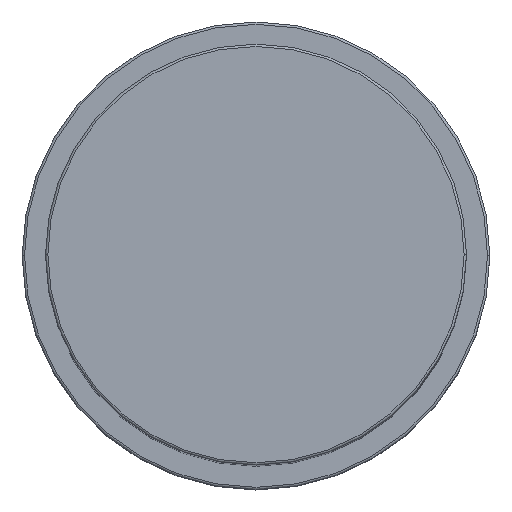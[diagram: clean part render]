
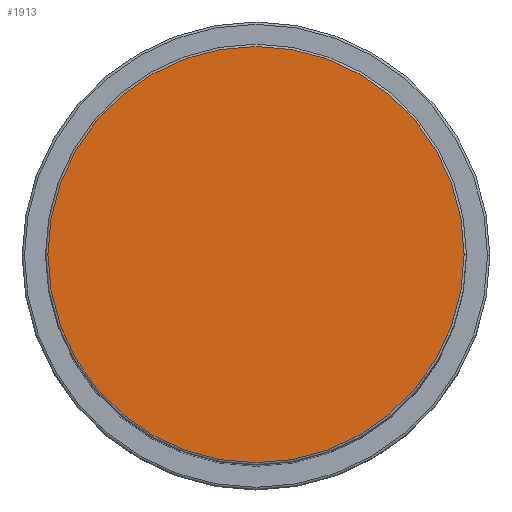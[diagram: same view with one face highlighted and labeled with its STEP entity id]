
A CAD part, top view. The second image highlights one B-rep face of the part: STEP entity #1913.
In plain terms, the highlighted planar face has unit normal (0, 0, 1).
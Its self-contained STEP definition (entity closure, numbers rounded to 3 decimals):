
#64 = ORIENTED_EDGE ( 'NONE', *, *, #3364, .T. ) ;
#66 = CIRCLE ( 'NONE', #613, 44.5 ) ;
#340 = CARTESIAN_POINT ( 'NONE',  ( 44.5, 0., 169. ) ) ;
#415 = CARTESIAN_POINT ( 'NONE',  ( 0., 0., 169. ) ) ;
#613 = AXIS2_PLACEMENT_3D ( 'NONE', #4337, #5429, #5457 ) ;
#698 = AXIS2_PLACEMENT_3D ( 'NONE', #4610, #2884, #3497 ) ;
#1458 = DIRECTION ( 'NONE',  ( 0., 0., 1. ) ) ;
#1913 = ADVANCED_FACE ( 'NONE', ( #4365 ), #5690, .T. ) ;
#2823 = CARTESIAN_POINT ( 'NONE',  ( -44.5, 0., 169. ) ) ;
#2884 = DIRECTION ( 'NONE',  ( 0., 0., 1. ) ) ;
#3364 = EDGE_CURVE ( 'NONE', #3426, #7146, #3827, .T. ) ;
#3426 = VERTEX_POINT ( 'NONE', #340 ) ;
#3497 = DIRECTION ( 'NONE',  ( 1., 0., 0. ) ) ;
#3618 = ORIENTED_EDGE ( 'NONE', *, *, #6946, .T. ) ;
#3827 = CIRCLE ( 'NONE', #6444, 44.5 ) ;
#4259 = DIRECTION ( 'NONE',  ( 1., 0., 0. ) ) ;
#4337 = CARTESIAN_POINT ( 'NONE',  ( 0., 0., 169. ) ) ;
#4365 = FACE_OUTER_BOUND ( 'NONE', #4763, .T. ) ;
#4610 = CARTESIAN_POINT ( 'NONE',  ( 0., 0., 169. ) ) ;
#4763 = EDGE_LOOP ( 'NONE', ( #64, #3618 ) ) ;
#5429 = DIRECTION ( 'NONE',  ( 0., 0., 1. ) ) ;
#5457 = DIRECTION ( 'NONE',  ( 1., 0., 0. ) ) ;
#5690 = PLANE ( 'NONE',  #698 ) ;
#6444 = AXIS2_PLACEMENT_3D ( 'NONE', #415, #1458, #4259 ) ;
#6946 = EDGE_CURVE ( 'NONE', #7146, #3426, #66, .T. ) ;
#7146 = VERTEX_POINT ( 'NONE', #2823 ) ;
